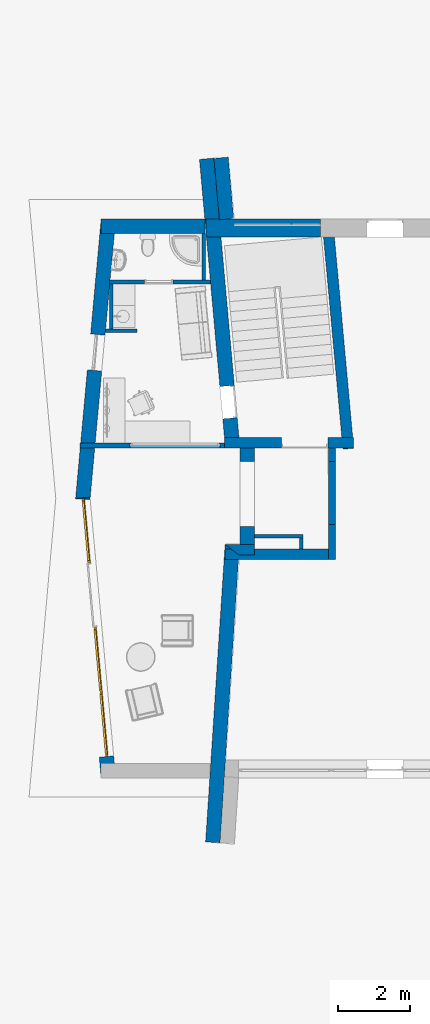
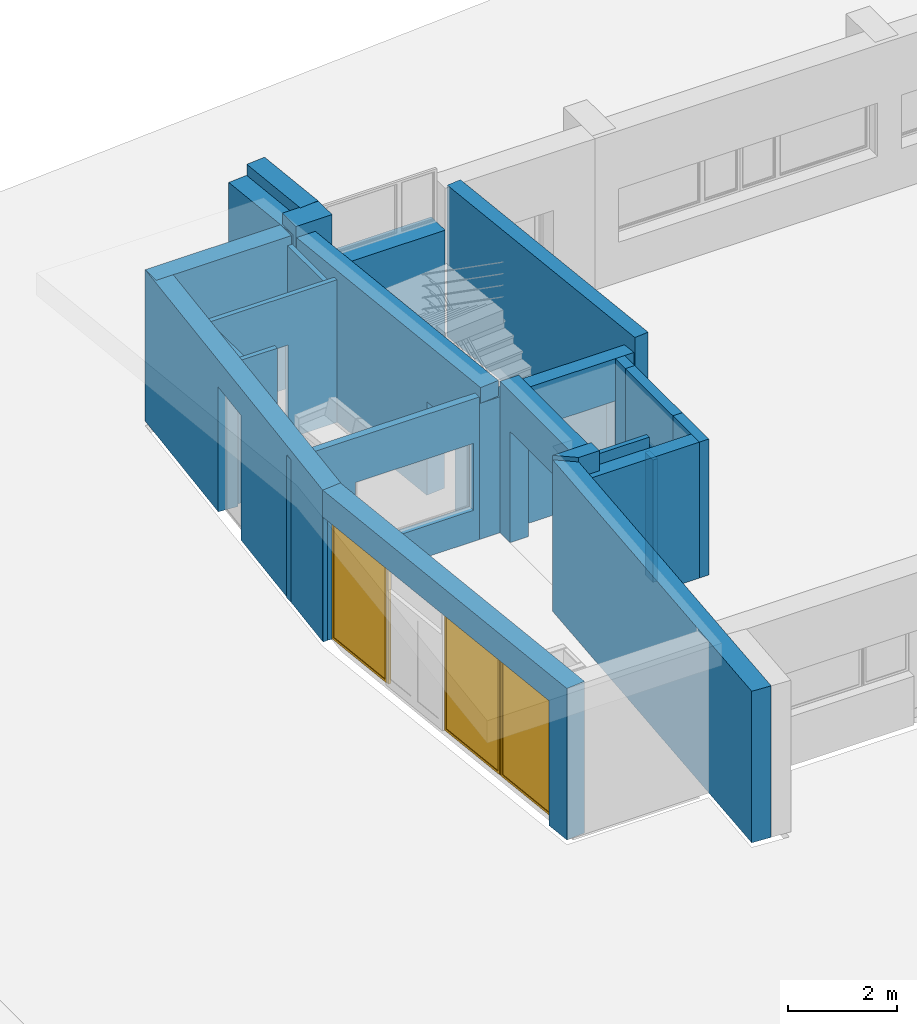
# One storey, part 2 of 36: 22 walls, 3 windows, 11 openings.
"""IFC2X3 building model written with IfcOpenShell, lengths in millimetres."""

import ifcopenshell
import ifcopenshell.guid

model = None  # the IFC model being written
_history = None  # IfcOwnerHistory: only IFC2X3 demands one
_inside = {}  # id of a spatial element -> (the spatial element, [elements in it])
_under = {}  # id of a project, library or spatial element -> (it, [spatial elements below it])
_declared = {}  # id of a project -> (the project, [libraries it declares])
_typed = {}  # id of a type object -> (the type object, [elements of that type])
_made_of = {}  # id of a material, layer set ... -> (it, [elements and type objects made of it])


def new_model(schema):
    """Start an empty IFC model of exactly this schema.

    Asked for "IFC4X3", IfcOpenShell would pick the latest addendum, in which some entities
    have other attributes; the version numbers below select the first issue.
    IFC2X3 requires an IfcOwnerHistory on every rooted entity: one is made here for all.
    """
    global model, _history
    if schema == "IFC4X3":
        model = ifcopenshell.file(schema_version=(4, 3, 0, 0))
    else:
        model = ifcopenshell.file(schema=schema)
    _inside.clear()
    _under.clear()
    _declared.clear()
    _typed.clear()
    _made_of.clear()
    _history = None
    if model.schema == "IFC2X3":
        org = make("IfcOrganization", Name="unknown")
        user = make(
            "IfcPersonAndOrganization",
            ThePerson=make("IfcPerson", FamilyName="unknown"),
            TheOrganization=org,
        )
        app = make(
            "IfcApplication",
            ApplicationDeveloper=org,
            Version="unknown",
            ApplicationFullName="unknown",
            ApplicationIdentifier="unknown",
        )
        _history = make(
            "IfcOwnerHistory",
            OwningUser=user,
            OwningApplication=app,
            ChangeAction="ADDED",
            CreationDate=0,
        )
    return model


def make(cls, **values):
    """One entity of the class cls with the attributes given. An attribute that is None is left unset."""
    return model.create_entity(
        cls, **{name: value for name, value in values.items() if value is not None}
    )


def entity(cls, *values):
    """Any entity or typed value of the class cls, its attributes in the order of the schema. None: left unset."""
    e = model.create_entity(cls)
    for i, value in enumerate(values):
        if value is not None:
            e[i] = value
    return e


def rooted(cls, **values):
    """An entity with a GlobalId (a new one), such as an element, a storey or a relation."""
    return make(cls, GlobalId=ifcopenshell.guid.new(), OwnerHistory=_history, **values)


def si_unit(unit_type, name, prefix=None):
    """IfcSIUnit, for example si_unit("LENGTHUNIT", "METRE", prefix="MILLI")."""
    return make("IfcSIUnit", UnitType=unit_type, Prefix=prefix, Name=name)


def converted_unit(unit_type, name, factor, base, dimensions=None, offset=None):
    """IfcConversionBasedUnit, such as the inch: factor (a typed value) times the base unit."""
    return make(
        "IfcConversionBasedUnit"
        if offset is None
        else "IfcConversionBasedUnitWithOffset",
        ConversionOffset=offset,
        Dimensions=None
        if dimensions is None
        else entity("IfcDimensionalExponents", *dimensions),
        UnitType=unit_type,
        Name=name,
        ConversionFactor=make(
            "IfcMeasureWithUnit", ValueComponent=factor, UnitComponent=base
        ),
    )


def money_unit(currency):
    """IfcMonetaryUnit."""
    return make("IfcMonetaryUnit", Currency=currency)


def assignment(units):
    """IfcUnitAssignment: the units of a project."""
    return None if units is None else make("IfcUnitAssignment", Units=units)


def point(xyz):
    """IfcCartesianPoint."""
    return None if xyz is None else make("IfcCartesianPoint", Coordinates=xyz)


def direction(xyz):
    """IfcDirection."""
    return None if xyz is None else make("IfcDirection", DirectionRatios=xyz)


def frame(location, z_axis=None, x_axis=None):
    """IfcAxis2Placement3D, a coordinate frame: its origin and axes. An axis left out is left unset."""
    return make(
        "IfcAxis2Placement3D",
        Location=point(location),
        Axis=direction(z_axis),
        RefDirection=direction(x_axis),
    )


def origin_with_axes():
    """The frame at (0, 0, 0) with the z axis (0, 0, 1) and the x axis (1, 0, 0) written out."""
    return frame((0.0, 0.0, 0.0), z_axis=(0.0, 0.0, 1.0), x_axis=(1.0, 0.0, 0.0))


def place(relative_to, where):
    """IfcLocalPlacement: puts the frame where relative to a parent placement (None: the world)."""
    return make(
        "IfcLocalPlacement", PlacementRelTo=relative_to, RelativePlacement=where
    )


def context(
    kind, dimensions, precision=None, world=None, true_north=None, identifier=None
):
    """IfcGeometricRepresentationContext, for example the 3D "Model" context."""
    return make(
        "IfcGeometricRepresentationContext",
        ContextIdentifier=identifier,
        ContextType=kind,
        CoordinateSpaceDimension=dimensions,
        Precision=precision,
        WorldCoordinateSystem=world,
        TrueNorth=true_north,
    )


def subcontext(parent, identifier, kind, view, scale=None):
    """IfcGeometricRepresentationSubContext, for example "Body" below "Model"."""
    return make(
        "IfcGeometricRepresentationSubContext",
        ContextIdentifier=identifier,
        ContextType=kind,
        ParentContext=parent,
        TargetScale=scale,
        TargetView=view,
    )


def project(units=None, contexts=None):
    """IfcProject with its units and contexts."""
    return rooted(
        "IfcProject",
        Name="project",
        RepresentationContexts=contexts,
        UnitsInContext=assignment(units),
    )


def spatial(cls, under=None, at=None, **own):
    """A site, building, storey or space (cls), placed at a placement, below another one or the project."""
    s = rooted(cls, ObjectPlacement=at, **own)
    if under is not None:
        _under.setdefault(under.id(), (under, []))[1].append(s)
    return s


def polyline(points):
    """IfcPolyline through the points."""
    return make("IfcPolyline", Points=[point(p) for p in points])


def outline(outer, holes=None, kind="AREA"):
    """IfcArbitraryClosedProfileDef: a profile drawn as a closed curve; with holes, ...WithVoids."""
    if holes is None:
        return make("IfcArbitraryClosedProfileDef", ProfileType=kind, OuterCurve=outer)
    return make(
        "IfcArbitraryProfileDefWithVoids",
        ProfileType=kind,
        OuterCurve=outer,
        InnerCurves=holes,
    )


def extrude(swept, where, along, depth):
    """IfcExtrudedAreaSolid: the profile swept, set in the frame where, extruded along a direction by depth."""
    return make(
        "IfcExtrudedAreaSolid",
        SweptArea=swept,
        Position=where,
        ExtrudedDirection=direction(along),
        Depth=depth,
    )


def faces_of(points, faces, orient=None, outer=None):
    """IfcFace entities. A face is a list of loops; a loop is a list of indices into points, from 0.

    orient and outer hold one flag for each loop. By default every Orientation is true, the
    first loop of a face is its IfcFaceOuterBound and the others are IfcFaceBound.
    """
    made = []
    for i, loops in enumerate(faces):
        bounds = []
        for j, loop in enumerate(loops):
            is_outer = j == 0 if outer is None else outer[i][j]
            bounds.append(
                make(
                    "IfcFaceOuterBound" if is_outer else "IfcFaceBound",
                    Bound=make("IfcPolyLoop", Polygon=[points[k] for k in loop]),
                    Orientation=True if orient is None else orient[i][j],
                )
            )
        made.append(make("IfcFace", Bounds=bounds))
    return made


def open_shell(faces, orient=None, outer=None):
    """The faces of one IfcOpenShell. surface_model builds it on its shared points."""
    return ("IfcOpenShell", faces, orient, outer)


def faceted_brep(points, faces, orient=None, outer=None, voids=None):
    """IfcFacetedBrep: a solid bounded by flat faces; with voids (closed shells), ...WithVoids."""
    shared = [point(p) for p in points]
    hull = make("IfcClosedShell", CfsFaces=faces_of(shared, faces, orient, outer))
    if voids is None:
        return make("IfcFacetedBrep", Outer=hull)
    return make(
        "IfcFacetedBrepWithVoids",
        Outer=hull,
        Voids=[
            make(cls, CfsFaces=faces_of(shared, fs, o, b)) for cls, fs, o, b in voids
        ],
    )


def surface_model(cls, points, shells):
    """IfcFaceBasedSurfaceModel or IfcShellBasedSurfaceModel (cls): surfaces that need not close."""
    shared = [point(p) for p in points]
    made = [make(c, CfsFaces=faces_of(shared, fs, o, b)) for c, fs, o, b in shells]
    if cls == "IfcFaceBasedSurfaceModel":
        return make(cls, FbsmFaces=made)
    return make(cls, SbsmBoundary=made)


def shape(context_of_items, identifier, shape_type, items):
    """IfcShapeRepresentation: the items that make up one representation, for example the "Body"."""
    return make(
        "IfcShapeRepresentation",
        ContextOfItems=context_of_items,
        RepresentationIdentifier=identifier,
        RepresentationType=shape_type,
        Items=items,
    )


def source(mapping_origin, context_of_items, identifier, shape_type, items):
    """IfcRepresentationMap: a shape defined once, which mapped items show again and again."""
    return make(
        "IfcRepresentationMap",
        MappingOrigin=mapping_origin,
        MappedRepresentation=shape(context_of_items, identifier, shape_type, items),
    )


def transform(
    local_origin,
    x_axis=None,
    y_axis=None,
    z_axis=None,
    scale=None,
    scale2=None,
    scale3=None,
    uniform=True,
):
    """IfcCartesianTransformationOperator3D, or its non-uniform kind. x_axis, y_axis, z_axis: its Axis1, 2, 3."""
    if uniform:
        return make(
            "IfcCartesianTransformationOperator3D",
            Axis1=direction(x_axis),
            Axis2=direction(y_axis),
            LocalOrigin=point(local_origin),
            Scale=scale,
            Axis3=direction(z_axis),
        )
    return make(
        "IfcCartesianTransformationOperator3DnonUniform",
        Axis1=direction(x_axis),
        Axis2=direction(y_axis),
        LocalOrigin=point(local_origin),
        Scale=scale,
        Axis3=direction(z_axis),
        Scale2=scale2,
        Scale3=scale3,
    )


def mapped(mapping_source, mapping_target):
    """IfcMappedItem: shows the shape of a source again, moved by a transform."""
    return make(
        "IfcMappedItem", MappingSource=mapping_source, MappingTarget=mapping_target
    )


def material(Name=None, Category=None):
    """IfcMaterial."""
    return make("IfcMaterial", Name=Name, Category=Category)


def material_list(materials):
    """IfcMaterialList."""
    return make("IfcMaterialList", Materials=materials)


def layer(
    of_material, thickness, ventilated=None, Name=None, Category=None, Priority=None
):
    """IfcMaterialLayer: one layer of a wall or slab, of a material (None: an air gap)."""
    return make(
        "IfcMaterialLayer",
        Material=of_material,
        LayerThickness=thickness,
        IsVentilated=ventilated,
        Name=Name,
        Category=Category,
        Priority=Priority,
    )


def layer_set(layers, Name=None):
    """IfcMaterialLayerSet."""
    return make("IfcMaterialLayerSet", MaterialLayers=layers, LayerSetName=Name)


def layer_usage(for_layer_set, set_direction, sense, offset, extent=None):
    """IfcMaterialLayerSetUsage: how a layer set lies in its element."""
    return make(
        "IfcMaterialLayerSetUsage",
        ForLayerSet=for_layer_set,
        LayerSetDirection=set_direction,
        DirectionSense=sense,
        OffsetFromReferenceLine=offset,
        ReferenceExtent=extent,
    )


def made_of(thing, what):
    """Note that an element or type object is made of a material, layer set ...; save() writes the relation."""
    if what is not None:
        _made_of.setdefault(what.id(), (what, []))[1].append(thing)
    return thing


def type_object(cls, material=None, **own):
    """A type object (cls), such as IfcWallType, which elements share."""
    return made_of(rooted(cls, **own), material)


def element(
    cls,
    number,
    at=None,
    inside=None,
    cuts=None,
    type_object=None,
    material=None,
    context=None,
    identifier="Body",
    shape_type=None,
    held_by="IfcProductDefinitionShape",
    body=None,
    shapes=None,
    **own,
):
    """One element of the class cls, such as IfcWall. Its Tag is "e" and its number.

    at: its placement. inside: the storey or other place that contains it. cuts: it is an
    opening in that element (IfcRelVoidsElement). A single representation is given by context,
    identifier, shape_type and body (its items); several are given by shapes. held_by: the class
    of the entity that holds the representations. save() writes the other relations.
    """
    e = rooted(cls, Tag="e%d" % number, ObjectPlacement=at, **own)
    if body is not None:
        shapes = [shape(context, identifier, shape_type, body)]
    if shapes is not None:
        e.Representation = make(held_by, Representations=shapes)
    if inside is not None:
        _inside.setdefault(inside.id(), (inside, []))[1].append(e)
    if cuts is not None:
        rooted(
            "IfcRelVoidsElement", RelatingBuildingElement=cuts, RelatedOpeningElement=e
        )
    if type_object is not None:
        _typed.setdefault(type_object.id(), (type_object, []))[1].append(e)
    return made_of(e, material)


def fill(opening, filler):
    """IfcRelFillsElement: the door or window that sits in an opening."""
    return rooted(
        "IfcRelFillsElement",
        RelatingOpeningElement=opening,
        RelatedBuildingElement=filler,
    )


def aggregate(whole, parts):
    """IfcRelAggregates: a whole, such as a stair, and the parts it consists of."""
    return rooted("IfcRelAggregates", RelatingObject=whole, RelatedObjects=parts)


def save(model, path):
    """Write the relations noted so far, then the file.

    IfcRelAggregates (storeys below a building ...), IfcRelContainedInSpatialStructure (elements
    in a storey), IfcRelDefinesByType, IfcRelAssociatesMaterial and IfcRelDeclares: one each for
    every whole, place, type object, material and project.
    """
    for whole, parts in _under.values():
        aggregate(whole, parts)
    for where, things in _inside.values():
        rooted(
            "IfcRelContainedInSpatialStructure",
            RelatedElements=things,
            RelatingStructure=where,
        )
    for kind, things in _typed.values():
        rooted("IfcRelDefinesByType", RelatedObjects=things, RelatingType=kind)
    for what, things in _made_of.values():
        rooted("IfcRelAssociatesMaterial", RelatedObjects=things, RelatingMaterial=what)
    for by, libraries in _declared.values():
        rooted("IfcRelDeclares", RelatingContext=by, RelatedDefinitions=libraries)
    model.write(path)


model = new_model("IFC2X3")

# Units and contexts
model_context = context("Model", 3, precision=1e-05, world=origin_with_axes(), true_north=direction((0.0, 1.0)))
body_context = subcontext(model_context, "Body", "Model", "MODEL_VIEW")
ifc_project = project(units=[si_unit("LENGTHUNIT", "METRE", prefix="MILLI"), si_unit("AREAUNIT", "SQUARE_METRE"), si_unit("VOLUMEUNIT", "CUBIC_METRE"), converted_unit("PLANEANGLEUNIT", "DEGREE", entity("IfcPlaneAngleMeasure", 0.0174532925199), si_unit("PLANEANGLEUNIT", "RADIAN"), dimensions=[0, 0, 0, 0, 0, 0, 0]), si_unit("SOLIDANGLEUNIT", "STERADIAN"), money_unit("USD"), converted_unit("TIMEUNIT", "Year", entity("IfcTimeMeasure", 31556926.0), si_unit("TIMEUNIT", "SECOND"), dimensions=[0, 0, 0, 0, 0, 0, 0]), si_unit("MASSUNIT", "GRAM"), si_unit("THERMODYNAMICTEMPERATUREUNIT", "DEGREE_CELSIUS"), si_unit("LUMINOUSINTENSITYUNIT", "LUMEN")], contexts=[model_context])

# Site, building, storey
site_placement = place(None, origin_with_axes())
site = spatial("IfcSite", under=ifc_project, at=site_placement, Name="Site", CompositionType="ELEMENT")
building_placement = place(site_placement, origin_with_axes())
building = spatial("IfcBuilding", under=site, at=building_placement, Name="Building", CompositionType="ELEMENT")
storey_placement = place(building_placement, frame((0.0, 0.0, -3400.0), z_axis=(0.0, 0.0, 1.0), x_axis=(1.0, 0.0, 0.0)))
storey = spatial("IfcBuildingStorey", under=building, at=storey_placement, Name="1KORRUS", CompositionType="ELEMENT", Elevation=-3400.0)

# Wall, opening
ifc_material_1 = material(Name="Olemasolevad seinad tellis, uus viimistlus")
ifc_layer_1 = layer(ifc_material_1, 400.0, ventilated="UNKNOWN")
ifc_layer_set_1 = layer_set([ifc_layer_1], Name="Olemasolevad seinad tellis, uus viimistlus 400")
ifc_layer_usage_1 = layer_usage(ifc_layer_set_1, "AXIS2", "POSITIVE", -400.0)
wall_type_1 = type_object("IfcWallType", Name="Olemasolevad seinad tellis, uus viimistlus 400", PredefinedType="NOTDEFINED")
wall_1_placement = place(storey_placement, frame((-54200.5997828, -10997.6526712, 0.0), z_axis=(0.0, 0.0, 1.0), x_axis=(-0.0895981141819, 0.995978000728, 0.0)))
wall_1 = element("IfcWallStandardCase", 1, at=wall_1_placement, inside=storey, type_object=wall_type_1, material=ifc_layer_usage_1, Name="VS1", ObjectType="VS1", context=body_context, shape_type="SweptSolid", body=[
    extrude(outline(polyline([(0.0, -400.0), (8042.03298677, -400.0), (8042.03298677, 0.0), (0.0, 0.0), (0.0, -400.0)])), origin_with_axes(), (0.0, 0.0, 1.0), 3400.0),
])
opening_1_placement = place(wall_1_placement, frame((1267.27481018, 0.0, 0.0), z_axis=(0.0, 0.0, 1.0), x_axis=(1.0, 0.0, 0.0)))
element("IfcOpeningElement", 2, at=opening_1_placement, cuts=wall_1, Name="SU7", context=body_context, shape_type="SweptSolid", body=[
    extrude(outline(polyline([(-450.0, -2100.0), (450.0, -2100.0), (450.0, 0.0), (-450.0, 0.0), (-450.0, -2100.0)])), frame((0.0, 400.0, 0.0), z_axis=(0.0, -1.0, 0.0), x_axis=(-1.0, 0.0, 0.0)), (0.0, 0.0, 1.0), 1200.0),
])

# Walls
ifc_layer_usage_2 = layer_usage(ifc_layer_set_1, "AXIS2", "POSITIVE", 0.0)
wall_2_placement = place(storey_placement, frame((-54209.8419994, -13661.5124894, 0.0), z_axis=(0.0, 0.0, 1.0), x_axis=(-0.0653463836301, -0.997862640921, 0.0)))
element("IfcWallStandardCase", 3, at=wall_2_placement, inside=storey, type_object=wall_type_1, material=ifc_layer_usage_2, Name="VS1", ObjectType="VS1", context=body_context, shape_type="SweptSolid", body=[
    extrude(outline(polyline([(0.0, 0.0), (8272.34369244, 0.0), (8272.34369244, 400.0), (0.0, 400.0), (0.0, 0.0)])), origin_with_axes(), (0.0, 0.0, 1.0), 3400.0),
])
ifc_layer_usage_3 = layer_usage(ifc_layer_set_1, "AXIS2", "POSITIVE", 0.0)
wall_3_placement = place(storey_placement, frame((-53970.4073993, -4627.72563275, 0.0), z_axis=(0.0, 0.0, 1.0), x_axis=(-0.0895981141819, 0.995978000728, 0.0)))
element("IfcWallStandardCase", 4, at=wall_3_placement, inside=storey, type_object=wall_type_1, material=ifc_layer_usage_3, Name="VS1", ObjectType="VS1", context=body_context, shape_type="SweptSolid", body=[
    extrude(outline(polyline([(0.0, 0.0), (1709.93377799, 0.0), (1709.93377799, 400.0), (0.0, 400.0), (0.0, 0.0)])), origin_with_axes(), (0.0, 0.0, 1.0), 3650.0),
])

# Wall, opening
ifc_layer_usage_4 = layer_usage(ifc_layer_set_1, "AXIS2", "POSITIVE", -400.0)
wall_4_placement = place(storey_placement, frame((-53392.226831, -10997.6526712, 0.0), z_axis=(0.0, 0.0, 1.0), x_axis=(0.0, -1.0, 0.0)))
wall_4 = element("IfcWallStandardCase", 5, at=wall_4_placement, inside=storey, type_object=wall_type_1, material=ifc_layer_usage_4, Name="VS1", ObjectType="VS1", context=body_context, shape_type="SweptSolid", body=[
    extrude(outline(polyline([(0.0, -400.0), (2789.68489615, -400.0), (2789.68489615, 0.0), (0.0, 0.0), (0.0, -400.0)])), origin_with_axes(), (0.0, 0.0, 1.0), 3400.0),
])
opening_2_placement = place(wall_4_placement, frame((1268.92656346, 0.0, 0.0), z_axis=(0.0, 0.0, 1.0), x_axis=(1.0, 0.0, 0.0)))
element("IfcOpeningElement", 6, at=opening_2_placement, cuts=wall_4, Name="DOO - 001", context=body_context, shape_type="SweptSolid", body=[
    extrude(outline(polyline([(-900.0, 2500.0), (-900.0, 0.0), (900.0, 0.0), (900.0, 2500.0), (-900.0, 2500.0)])), frame((0.0, -400.0, 0.0), z_axis=(0.0, -1.0, 0.0), x_axis=(1.0, 0.0, 0.0)), (0.0, 0.0, 1.0), 400.0),
    extrude(outline(polyline([(-900.0, 0.0), (-900.0, -2500.0), (900.0, -2500.0), (900.0, 0.0), (-900.0, 0.0)])), frame((0.0, -400.0, 0.0), z_axis=(0.0, 1.0, 0.0), x_axis=(1.0, 0.0, 0.0)), (0.0, 0.0, 1.0), 400.0),
])

# Wall
ifc_layer_2 = layer(ifc_material_1, 300.0, ventilated="UNKNOWN")
ifc_layer_set_2 = layer_set([ifc_layer_2], Name="Olemasolevad seinad tellis, uus viimistlus 300")
ifc_layer_usage_5 = layer_usage(ifc_layer_set_2, "AXIS2", "POSITIVE", -300.0)
wall_type_2 = type_object("IfcWallType", Name="Olemasolevad seinad tellis, uus viimistlus 300", PredefinedType="NOTDEFINED")
wall_5_placement = place(storey_placement, frame((-54209.8419994, -13661.5124894, 0.0), z_axis=(0.0, 0.0, 1.0), x_axis=(1.0, 0.0, 0.0)))
element("IfcWallStandardCase", 7, at=wall_5_placement, inside=storey, type_object=wall_type_2, material=ifc_layer_usage_5, Name="VS1", ObjectType="VS1", context=body_context, shape_type="SweptSolid", body=[
    extrude(outline(polyline([(381.210869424, -300.0), (817.615168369, -300.0), (817.615168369, 0.0), (0.0, 0.0), (381.210869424, -300.0)])), origin_with_axes(), (0.0, 0.0, 1.0), 3500.0),
])

# Wall, opening
ifc_layer_3 = layer(ifc_material_1, 500.0, ventilated="UNKNOWN")
ifc_layer_set_3 = layer_set([ifc_layer_3], Name="Olemasolevad seinad tellis, uus viimistlus 500")
ifc_layer_usage_6 = layer_usage(ifc_layer_set_3, "AXIS2", "POSITIVE", -100.0)
wall_type_3 = type_object("IfcWallType", Name="Olemasolevad seinad tellis, uus viimistlus 500", PredefinedType="NOTDEFINED")
wall_6_placement = place(storey_placement, frame((-54736.5854321, -5039.6041088, 0.0), z_axis=(0.0, 0.0, 1.0), x_axis=(1.0, 0.0, 0.0)))
wall_6 = element("IfcWallStandardCase", 8, at=wall_6_placement, inside=storey, type_object=wall_type_3, material=ifc_layer_usage_6, Name="VS1", ObjectType="VS1", context=body_context, shape_type="SweptSolid", body=[
    extrude(outline(polyline([(0.0, -100.0), (3167.24661967, -100.0), (3167.24661967, 400.0), (0.0, 400.0), (0.0, -100.0)])), origin_with_axes(), (0.0, 0.0, 1.0), 3650.0),
])
opening_3_placement = place(wall_6_placement, frame((1967.24661967, 0.0, 2460.0), z_axis=(0.0, 0.0, 1.0), x_axis=(1.0, 0.0, 0.0)))
element("IfcOpeningElement", 9, at=opening_3_placement, cuts=wall_6, Name="A2", context=body_context, shape_type="SweptSolid", body=[
    extrude(outline(polyline([(-1200.0, 1200.0), (-1200.0, 0.0), (1200.0, 0.0), (1200.0, 1200.0), (-1200.0, 1200.0)])), frame((0.0, 250.0, 0.0), z_axis=(0.0, -1.0, 0.0), x_axis=(1.0, 0.0, 0.0)), (0.0, 0.0, 1.0), 850.0),
    extrude(outline(polyline([(-1200.0, 0.0), (-1200.0, -1200.0), (1200.0, -1200.0), (1200.0, 0.0), (-1200.0, 0.0)])), frame((0.0, 250.0, 0.0), z_axis=(0.0, 1.0, 0.0), x_axis=(1.0, 0.0, 0.0)), (0.0, 0.0, 1.0), 650.0),
])

# Wall, openings, windows
ifc_material_2 = material(Name="Kergplokk")
ifc_layer_4 = layer(ifc_material_2, 200.0, ventilated="UNKNOWN")
ifc_material_3 = material(Name="Plaat")
ifc_layer_5 = layer(ifc_material_3, 200.0, ventilated="UNKNOWN")
ifc_layer_set_4 = layer_set([ifc_layer_4, ifc_layer_5], Name="VS2 Uus välissein kergplokk, soojustus, plaat")
ifc_layer_usage_7 = layer_usage(ifc_layer_set_4, "AXIS2", "POSITIVE", -400.0)
wall_type_4 = type_object("IfcWallType", Name="VS2 Uus välissein kergplokk, soojustus, plaat 400", PredefinedType="NOTDEFINED")
wall_7_placement = place(storey_placement, frame((-57647.6401026, -20140.8461459, 0.0), z_axis=(0.0, 0.0, 1.0), x_axis=(-0.0910473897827, 0.995846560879, 0.0)))
wall_7 = element("IfcWallStandardCase", 10, at=wall_7_placement, inside=storey, type_object=wall_type_4, material=ifc_layer_usage_7, Name="VS2", ObjectType="VS2", context=body_context, shape_type="SweptSolid", body=[
    extrude(outline(polyline([(0.0, -400.0), (7782.94701514, -400.0), (7782.94701514, 0.0), (0.0, 0.0), (0.0, -400.0)])), origin_with_axes(), (0.0, 0.0, 1.0), 3400.0),
])
opening_4_placement = place(wall_7_placement, frame((6866.08785727, 0.0, 0.0), z_axis=(0.0, 0.0, 1.0), x_axis=(1.0, 0.0, 0.0)))
opening_4 = element("IfcOpeningElement", 11, at=opening_4_placement, cuts=wall_7, Name="KLA1", context=body_context, shape_type="SweptSolid", body=[
    extrude(outline(polyline([(-900.0, 0.0), (-900.0, -2800.0), (900.0, -2800.0), (900.0, 0.0), (-900.0, 0.0)])), frame((0.0, -200.0, 0.0), z_axis=(0.0, 1.0, 0.0), x_axis=(1.0, 0.0, 0.0)), (0.0, 0.0, 1.0), 600.0),
    extrude(outline(polyline([(-900.0, 2800.0), (-900.0, 0.0), (900.0, 0.0), (900.0, 2800.0), (-900.0, 2800.0)])), frame((0.0, -200.0, 0.0), z_axis=(0.0, -1.0, 0.0), x_axis=(1.0, 0.0, 0.0)), (0.0, 0.0, 1.0), 600.0),
])
opening_5_placement = place(wall_7_placement, frame((3275.57702924, 0.0, 0.0), z_axis=(0.0, 0.0, 1.0), x_axis=(1.0, 0.0, 0.0)))
opening_5 = element("IfcOpeningElement", 12, at=opening_5_placement, cuts=wall_7, Name="KLA1", context=body_context, shape_type="SweptSolid", body=[
    extrude(outline(polyline([(-900.0, 0.0), (-900.0, -2800.0), (900.0, -2800.0), (900.0, 0.0), (-900.0, 0.0)])), frame((0.0, -200.0, 0.0), z_axis=(0.0, 1.0, 0.0), x_axis=(1.0, 0.0, 0.0)), (0.0, 0.0, 1.0), 600.0),
    extrude(outline(polyline([(-900.0, 2800.0), (-900.0, 0.0), (900.0, 0.0), (900.0, 2800.0), (-900.0, 2800.0)])), frame((0.0, -200.0, 0.0), z_axis=(0.0, -1.0, 0.0), x_axis=(1.0, 0.0, 0.0)), (0.0, 0.0, 1.0), 600.0),
])
opening_6_placement = place(wall_7_placement, frame((1475.57702924, 0.0, 0.0), z_axis=(0.0, 0.0, 1.0), x_axis=(1.0, 0.0, 0.0)))
opening_6 = element("IfcOpeningElement", 13, at=opening_6_placement, cuts=wall_7, Name="KLA1", context=body_context, shape_type="SweptSolid", body=[
    extrude(outline(polyline([(-900.0, 0.0), (-900.0, -2800.0), (900.0, -2800.0), (900.0, 0.0), (-900.0, 0.0)])), frame((0.0, -200.0, 0.0), z_axis=(0.0, 1.0, 0.0), x_axis=(1.0, 0.0, 0.0)), (0.0, 0.0, 1.0), 600.0),
    extrude(outline(polyline([(-900.0, 2800.0), (-900.0, 0.0), (900.0, 0.0), (900.0, 2800.0), (-900.0, 2800.0)])), frame((0.0, -200.0, 0.0), z_axis=(0.0, -1.0, 0.0), x_axis=(1.0, 0.0, 0.0)), (0.0, 0.0, 1.0), 600.0),
])
opening_7_placement = place(wall_7_placement, frame((5075.57702924, 0.0, 0.0), z_axis=(0.0, 0.0, 1.0), x_axis=(1.0, 0.0, 0.0)))
element("IfcOpeningElement", 14, at=opening_7_placement, cuts=wall_7, Name="KLA1", context=body_context, shape_type="SweptSolid", body=[
    extrude(outline(polyline([(900.0, 2800.0), (-900.0, 2800.0), (-900.0, 0.0), (900.0, 0.0), (900.0, 2800.0)])), frame((0.0, -150.0, 0.0), z_axis=(0.0, -1.0, 0.0), x_axis=(1.0, 0.0, 0.0)), (0.0, 0.0, 1.0), 650.0),
    extrude(outline(polyline([(900.0, 0.0), (-900.0, 0.0), (-900.0, -2800.0), (900.0, -2800.0), (900.0, 0.0)])), frame((0.0, -150.0, 0.0), z_axis=(0.0, 1.0, 0.0), x_axis=(1.0, 0.0, 0.0)), (0.0, 0.0, 1.0), 550.0),
])
ifc_material_4 = material(Name="Background")
ifc_material_list = material_list([ifc_material_4])
window_style = type_object("IfcWindowStyle", Name="Window 19", ConstructionType="NOTDEFINED", OperationType="SINGLE_PANEL", ParameterTakesPrecedence=False, Sizeable=False)
shared_shape = source(origin_with_axes(), body_context, "Body", "SurfaceModel", [
    faceted_brep([(-875.0, -200.0, 2750.0), (-900.0, -200.0, 2750.0), (-900.0, -250.0, 2750.0), (-850.0, -250.0, 2750.0), (-850.0, -225.0, 2750.0), (-875.0, -225.0, 2750.0), (-875.0, -200.0, 50.0), (-900.0, -200.0, 50.0), (-900.0, -250.0, 50.0), (-850.0, -250.0, 50.0), (-850.0, -225.0, 50.0), (-875.0, -225.0, 50.0)], [[[0, 1, 2, 3, 4, 5]], [[6, 7, 1, 0]], [[1, 7, 8, 2]], [[2, 8, 9, 3]], [[4, 3, 9, 10]], [[10, 11, 5, 4]], [[5, 11, 6, 0]], [[11, 10, 9, 8, 7, 6]]]),
    faceted_brep([(850.0, -225.0, 2750.0), (850.0, -250.0, 2750.0), (900.0, -250.0, 2750.0), (900.0, -200.0, 2750.0), (875.0, -200.0, 2750.0), (875.0, -225.0, 2750.0), (850.0, -225.0, 50.0), (850.0, -250.0, 50.0), (900.0, -250.0, 50.0), (900.0, -200.0, 50.0), (875.0, -200.0, 50.0), (875.0, -225.0, 50.0)], [[[0, 1, 2, 3, 4, 5]], [[6, 7, 1, 0]], [[8, 2, 1, 7]], [[9, 3, 2, 8]], [[4, 3, 9, 10]], [[10, 11, 5, 4]], [[5, 11, 6, 0]], [[11, 10, 9, 8, 7, 6]]]),
    faceted_brep([(850.0, -225.0, 50.0), (850.0, -250.0, 50.0), (900.0, -250.0, 50.0), (900.0, -200.0, 50.0), (875.0, -200.0, 50.0), (875.0, -225.0, 50.0), (-850.0, -225.0, 50.0), (-850.0, -250.0, 50.0), (-900.0, -250.0, 50.0), (-900.0, -250.0, 0.0), (900.0, -250.0, 0.0), (900.0, -200.0, 0.0), (-875.0, -200.0, 25.0), (875.0, -200.0, 25.0), (-900.0, -200.0, 0.0), (-900.0, -200.0, 50.0), (-875.0, -200.0, 50.0), (875.0, -225.0, 25.0), (-875.0, -225.0, 25.0), (-875.0, -225.0, 50.0)], [[[0, 1, 2, 3, 4, 5]], [[6, 7, 1, 0]], [[8, 9, 10, 2, 1, 7]], [[11, 3, 2, 10]], [[12, 13, 4, 3, 11, 14, 15, 16]], [[13, 17, 5, 4]], [[5, 17, 18, 19, 6, 0]], [[19, 16, 15, 8, 7, 6]], [[15, 14, 9, 8]], [[14, 11, 10, 9]], [[12, 18, 17, 13]], [[19, 18, 12, 16]]]),
    faceted_brep([(-875.0, -200.0, 2750.0), (-900.0, -200.0, 2750.0), (-900.0, -200.0, 2800.0), (900.0, -200.0, 2800.0), (900.0, -200.0, 2750.0), (875.0, -200.0, 2750.0), (875.0, -200.0, 2775.0), (-875.0, -200.0, 2775.0), (-875.0, -225.0, 2750.0), (-850.0, -225.0, 2750.0), (-850.0, -250.0, 2750.0), (-900.0, -250.0, 2750.0), (-900.0, -250.0, 2800.0), (900.0, -250.0, 2800.0), (900.0, -250.0, 2750.0), (875.0, -225.0, 2750.0), (850.0, -250.0, 2750.0), (850.0, -225.0, 2750.0), (875.0, -225.0, 2775.0), (-875.0, -225.0, 2775.0)], [[[0, 1, 2, 3, 4, 5, 6, 7]], [[8, 9, 10, 11, 1, 0]], [[2, 1, 11, 12]], [[3, 2, 12, 13]], [[4, 3, 13, 14]], [[15, 5, 4, 14, 16, 17]], [[5, 15, 18, 6]], [[6, 18, 19, 7]], [[7, 19, 8, 0]], [[17, 9, 8, 19, 18, 15]], [[17, 16, 10, 9]], [[14, 13, 12, 11, 10, 16]]]),
    faceted_brep([(-825.0, -225.0, 2725.0), (-825.0, -175.0, 2725.0), (-875.0, -175.0, 2725.0), (-875.0, -225.0, 2725.0), (-825.0, -225.0, 75.0), (-825.0, -175.0, 75.0), (-875.0, -175.0, 75.0), (-875.0, -225.0, 75.0)], [[[0, 1, 2, 3]], [[4, 5, 1, 0]], [[1, 5, 6, 2]], [[3, 2, 6, 7]], [[0, 3, 7, 4]], [[7, 6, 5, 4]]]),
    faceted_brep([(825.0, -225.0, 75.0), (825.0, -175.0, 75.0), (875.0, -175.0, 75.0), (875.0, -225.0, 75.0), (825.0, -225.0, 2725.0), (825.0, -175.0, 2725.0), (875.0, -175.0, 2725.0), (875.0, -225.0, 2725.0)], [[[0, 1, 2, 3]], [[4, 5, 1, 0]], [[1, 5, 6, 2]], [[3, 2, 6, 7]], [[0, 3, 7, 4]], [[7, 6, 5, 4]]]),
    faceted_brep([(875.0, -225.0, 25.0), (875.0, -175.0, 25.0), (875.0, -175.0, 75.0), (875.0, -225.0, 75.0), (-875.0, -225.0, 25.0), (-875.0, -175.0, 25.0), (-875.0, -175.0, 75.0), (-825.0, -175.0, 75.0), (825.0, -175.0, 75.0), (825.0, -225.0, 75.0), (-825.0, -225.0, 75.0), (-875.0, -225.0, 75.0)], [[[0, 1, 2, 3]], [[4, 5, 1, 0]], [[1, 5, 6, 7, 8, 2]], [[3, 2, 8, 9]], [[0, 3, 9, 10, 11, 4]], [[11, 6, 5, 4]], [[10, 7, 6, 11]], [[9, 8, 7, 10]]]),
    faceted_brep([(-875.0, -225.0, 2775.0), (-875.0, -175.0, 2775.0), (-875.0, -175.0, 2725.0), (-875.0, -225.0, 2725.0), (875.0, -225.0, 2775.0), (875.0, -175.0, 2775.0), (875.0, -175.0, 2725.0), (825.0, -175.0, 2725.0), (-825.0, -175.0, 2725.0), (-825.0, -225.0, 2725.0), (825.0, -225.0, 2725.0), (875.0, -225.0, 2725.0)], [[[0, 1, 2, 3]], [[4, 5, 1, 0]], [[1, 5, 6, 7, 8, 2]], [[3, 2, 8, 9]], [[0, 3, 9, 10, 11, 4]], [[11, 6, 5, 4]], [[10, 7, 6, 11]], [[9, 8, 7, 10]]]),
    surface_model("IfcShellBasedSurfaceModel", [(-825.0, -210.0, 75.0), (825.0, -210.0, 75.0), (825.0, -210.0, 2725.0), (-825.0, -210.0, 2725.0)], [open_shell([[[0, 1, 2, 3]]])]),
    surface_model("IfcShellBasedSurfaceModel", [(-825.0, -190.0, 75.0), (-825.0, -190.0, 2725.0), (825.0, -190.0, 2725.0), (825.0, -190.0, 75.0)], [open_shell([[[0, 1, 2, 3]]])]),
])
window_1_placement = place(opening_4_placement, frame((-900.0, 0.0, 0.0), z_axis=(0.0, 0.0, 1.0), x_axis=(1.0, 0.0, 0.0)))
window_1 = element("IfcWindow", 15, at=window_1_placement, inside=storey, type_object=window_style, material=ifc_material_list, Name="KLA1", ObjectType="KLA1", OverallHeight=2800.0, OverallWidth=1800.0, context=body_context, shape_type="MappedRepresentation", body=[
    mapped(shared_shape, transform((900.0, 0.0, 0.0))),
])
fill(opening_4, window_1)
window_2_placement = place(opening_5_placement, frame((-900.0, 0.0, 0.0), z_axis=(0.0, 0.0, 1.0), x_axis=(1.0, 0.0, 0.0)))
window_2 = element("IfcWindow", 16, at=window_2_placement, inside=storey, type_object=window_style, material=ifc_material_list, Name="KLA1", ObjectType="KLA1", OverallHeight=2800.0, OverallWidth=1800.0, context=body_context, shape_type="MappedRepresentation", body=[
    mapped(shared_shape, transform((900.0, 0.0, 0.0))),
])
fill(opening_5, window_2)
window_3_placement = place(opening_6_placement, frame((-900.0, 0.0, 0.0), z_axis=(0.0, 0.0, 1.0), x_axis=(1.0, 0.0, 0.0)))
window_3 = element("IfcWindow", 17, at=window_3_placement, inside=storey, type_object=window_style, material=ifc_material_list, Name="KLA1", ObjectType="KLA1", OverallHeight=2800.0, OverallWidth=1800.0, context=body_context, shape_type="MappedRepresentation", body=[
    mapped(shared_shape, transform((900.0, 0.0, 0.0))),
])
fill(opening_6, window_3)

# Wall, opening
ifc_layer_6 = layer(ifc_material_3, 200.0, ventilated="UNKNOWN")
ifc_layer_7 = layer(ifc_material_2, 200.0, ventilated="UNKNOWN")
ifc_layer_set_5 = layer_set([ifc_layer_6, ifc_layer_7], Name="VS2 Uus välissein kergplokk, soojustus, plaat (1)")
ifc_layer_usage_8 = layer_usage(ifc_layer_set_5, "AXIS2", "POSITIVE", 0.0)
wall_8_placement = place(storey_placement, frame((-57647.6401026, -4639.6041088, 0.0), z_axis=(0.0, 0.0, 1.0), x_axis=(-0.0910473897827, -0.995846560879, 0.0)))
wall_8 = element("IfcWallStandardCase", 18, at=wall_8_placement, inside=storey, type_object=wall_type_4, material=ifc_layer_usage_8, Name="VS2", ObjectType="VS2", context=body_context, shape_type="SweptSolid", body=[
    extrude(outline(polyline([(0.0, 0.0), (7782.94701514, 0.0), (7782.94701514, 400.0), (0.0, 400.0), (0.0, 0.0)])), origin_with_axes(), (0.0, 0.0, 1.0), 3400.0),
])
opening_8_placement = place(wall_8_placement, frame((3700.47568356, 0.0, 0.0), z_axis=(0.0, 0.0, 1.0), x_axis=(1.0, 0.0, 0.0)))
element("IfcOpeningElement", 19, at=opening_8_placement, cuts=wall_8, Name="A6", context=body_context, shape_type="SweptSolid", body=[
    extrude(outline(polyline([(500.0, 2800.0), (-500.0, 2800.0), (-500.0, 0.0), (500.0, 0.0), (500.0, 2800.0)])), frame((0.0, 150.0, 0.0), z_axis=(0.0, 1.0, 0.0), x_axis=(-1.0, 0.0, 0.0)), (0.0, 0.0, 1.0), 650.0),
    extrude(outline(polyline([(500.0, 0.0), (-500.0, 0.0), (-500.0, -2800.0), (500.0, -2800.0), (500.0, 0.0)])), frame((0.0, 150.0, 0.0), z_axis=(0.0, -1.0, 0.0), x_axis=(-1.0, 0.0, 0.0)), (0.0, 0.0, 1.0), 550.0),
])

# Wall
ifc_layer_usage_9 = layer_usage(ifc_layer_set_4, "AXIS2", "POSITIVE", -400.0)
wall_9_placement = place(storey_placement, frame((-57647.6401026, -4639.6041088, 0.0), z_axis=(0.0, 0.0, 1.0), x_axis=(1.0, 0.0, 0.0)))
element("IfcWallStandardCase", 20, at=wall_9_placement, inside=storey, type_object=wall_type_4, material=ifc_layer_usage_9, Name="VS2", ObjectType="VS2", context=body_context, shape_type="SweptSolid", body=[
    extrude(outline(polyline([(0.0, -400.0), (2875.07069736, -400.0), (2875.07069736, 0.0), (0.0, 0.0), (0.0, -400.0)])), origin_with_axes(), (0.0, 0.0, 1.0), 3400.0),
])

# Wall, opening
ifc_material_5 = material(Name="UmbKipsplaat")
ifc_layer_8 = layer(ifc_material_5, 13.0, ventilated="UNKNOWN")
ifc_layer_9 = layer(ifc_material_5, 13.0, ventilated="UNKNOWN")
ifc_material_6 = material(Name="SOOJUSTUS MINERAALVILL")
ifc_layer_10 = layer(ifc_material_6, 98.0, ventilated="UNKNOWN")
ifc_layer_11 = layer(ifc_material_5, 13.0, ventilated="UNKNOWN")
ifc_layer_12 = layer(ifc_material_5, 13.0, ventilated="UNKNOWN")
ifc_layer_set_6 = layer_set([ifc_layer_8, ifc_layer_9, ifc_layer_10, ifc_layer_11, ifc_layer_12], Name="kipssein150")
ifc_layer_usage_10 = layer_usage(ifc_layer_set_6, "AXIS2", "POSITIVE", 0.0)
wall_type_5 = type_object("IfcWallType", Name="kipssein150 150", PredefinedType="NOTDEFINED")
wall_10_placement = place(storey_placement, frame((-58228.9382147, -10997.6526712, 0.0), z_axis=(0.0, 0.0, 1.0), x_axis=(1.0, 0.0, 0.0)))
wall_10 = element("IfcWallStandardCase", 21, at=wall_10_placement, inside=storey, type_object=wall_type_5, material=ifc_layer_usage_10, Name="SS1", ObjectType="SS1", context=body_context, shape_type="SweptSolid", body=[
    extrude(outline(polyline([(0.0, 0.0), (4001.35045199, 0.0), (4001.35045199, 150.0), (0.0, 150.0), (0.0, 0.0)])), origin_with_axes(), (0.0, 0.0, 1.0), 3200.0),
])
opening_9_placement = place(wall_10_placement, frame((2628.33843188, 0.0, 700.0), z_axis=(0.0, 0.0, 1.0), x_axis=(1.0, 0.0, 0.0)))
element("IfcOpeningElement", 22, at=opening_9_placement, cuts=wall_10, Name="SA1", context=body_context, shape_type="SweptSolid", body=[
    extrude(outline(polyline([(-1250.0, 0.0), (-1250.0, -1500.0), (1250.0, -1500.0), (1250.0, 0.0), (-1250.0, 0.0)])), frame((0.0, 64.0, 0.0), z_axis=(0.0, 1.0, 0.0), x_axis=(1.0, 0.0, 0.0)), (0.0, 0.0, 1.0), 236.0),
    extrude(outline(polyline([(-1250.0, 1500.0), (-1250.0, 0.0), (1250.0, 0.0), (1250.0, 1500.0), (-1250.0, 1500.0)])), frame((0.0, 64.0, 0.0), z_axis=(0.0, -1.0, 0.0), x_axis=(1.0, 0.0, 0.0)), (0.0, 0.0, 1.0), 214.0),
])

# Walls
ifc_material_7 = material(Name="Olemasolevad seinad tellis, uus viimistlus")
ifc_layer_13 = layer(ifc_material_7, 300.0, ventilated="UNKNOWN")
ifc_layer_set_7 = layer_set([ifc_layer_13], Name="Olemasolevad seinad tellis, uus viimistlus  300")
ifc_layer_usage_11 = layer_usage(ifc_layer_set_7, "AXIS2", "POSITIVE", -300.0)
wall_type_6 = type_object("IfcWallType", Name="Olemasolevad seinad tellis, uus viimistlus  300", PredefinedType="NOTDEFINED")
wall_11_placement = place(storey_placement, frame((-51188.5055148, -5039.6041088, 0.0), z_axis=(0.0, 0.0, 1.0), x_axis=(0.0910473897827, -0.995846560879, 0.0)))
element("IfcWallStandardCase", 23, at=wall_11_placement, inside=storey, type_object=wall_type_6, material=ifc_layer_usage_11, Name="KS1", ObjectType="KS1", context=body_context, shape_type="SweptSolid", body=[
    extrude(outline(polyline([(0.0, -300.0), (5982.8981657, -300.0), (5982.8981657, 0.0), (0.0, 0.0), (0.0, -300.0)])), origin_with_axes(), (0.0, 0.0, 1.0), 3400.0),
])
ifc_layer_usage_12 = layer_usage(ifc_layer_set_7, "AXIS2", "POSITIVE", -300.0)
wall_12_placement = place(storey_placement, frame((-54209.8419994, -13787.3375674, 0.0), z_axis=(0.0, 0.0, 1.0), x_axis=(1.0, 0.0, 0.0)))
element("IfcWallStandardCase", 24, at=wall_12_placement, inside=storey, type_object=wall_type_6, material=ifc_layer_usage_12, Name="KS1", ObjectType="KS1", context=body_context, shape_type="SweptSolid", body=[
    extrude(outline(polyline([(0.0, -300.0), (3068.11193298, -300.0), (3068.11193298, 0.0), (0.0, 0.0), (0.0, -300.0)])), origin_with_axes(), (0.0, 0.0, 1.0), 3050.0),
])

# Wall, opening
ifc_layer_usage_13 = layer_usage(ifc_layer_set_7, "AXIS2", "POSITIVE", 0.0)
wall_13_placement = place(storey_placement, frame((-54227.5877627, -10997.6526712, 0.0), z_axis=(0.0, 0.0, 1.0), x_axis=(1.0, 0.0, 0.0)))
wall_13 = element("IfcWallStandardCase", 25, at=wall_13_placement, inside=storey, type_object=wall_type_6, material=ifc_layer_usage_13, Name="KS1", ObjectType="KS1", context=body_context, shape_type="SweptSolid", body=[
    extrude(outline(polyline([(0.0, 0.0), (3583.80950921, 0.0), (3583.80950921, 300.0), (0.0, 300.0), (0.0, 0.0)])), origin_with_axes(), (0.0, 0.0, 1.0), 3050.0),
])
opening_10_placement = place(wall_13_placement, frame((2225.04730344, 0.0, 0.0), z_axis=(0.0, 0.0, 1.0), x_axis=(1.0, 0.0, 0.0)))
element("IfcOpeningElement", 26, at=opening_10_placement, cuts=wall_13, Name="SU4-1", context=body_context, shape_type="SweptSolid", body=[
    extrude(outline(polyline([(650.0, -2100.0), (650.0, 0.0), (-650.0, 0.0), (-650.0, -2100.0), (650.0, -2100.0)])), frame((0.0, 300.0, 0.0), z_axis=(0.0, -1.0, 0.0), x_axis=(-1.0, 0.0, 0.0)), (0.0, 0.0, 1.0), 900.0),
])

# Walls
ifc_layer_14 = layer(ifc_material_7, 200.0, ventilated="UNKNOWN")
ifc_layer_set_8 = layer_set([ifc_layer_14], Name="Olemasolevad seinad tellis, uus viimistlus  200")
ifc_layer_usage_14 = layer_usage(ifc_layer_set_8, "AXIS2", "POSITIVE", 0.0)
wall_type_7 = type_object("IfcWallType", Name="Olemasolevad seinad tellis, uus viimistlus  200", PredefinedType="NOTDEFINED")
wall_14_placement = place(storey_placement, frame((-51141.7300664, -14087.3375674, 0.0), z_axis=(0.0, 0.0, 1.0), x_axis=(0.0, 1.0, 0.0)))
element("IfcWallStandardCase", 27, at=wall_14_placement, inside=storey, type_object=wall_type_7, material=ifc_layer_usage_14, Name="KS1", ObjectType="KS1", context=body_context, shape_type="SweptSolid", body=[
    extrude(outline(polyline([(0.0, 0.0), (975.989881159, 0.0), (975.989881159, 200.0), (0.0, 200.0), (0.0, 0.0)])), origin_with_axes(), (0.0, 0.0, 1.0), 3050.0),
])
ifc_layer_usage_15 = layer_usage(ifc_layer_set_8, "AXIS2", "POSITIVE", 0.0)
wall_15_placement = place(storey_placement, frame((-51141.7300664, -11366.5792347, 0.0), z_axis=(0.0, 0.0, 1.0), x_axis=(0.0, 1.0, 0.0)))
element("IfcWallStandardCase", 28, at=wall_15_placement, inside=storey, type_object=wall_type_7, material=ifc_layer_usage_15, Name="KS1", ObjectType="KS1", context=body_context, shape_type="SweptSolid", body=[
    extrude(outline(polyline([(0.0, 0.0), (368.926563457, 0.0), (368.926563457, 200.0), (0.0, 200.0), (0.0, 0.0)])), origin_with_axes(), (0.0, 0.0, 1.0), 3050.0),
])
ifc_material_8 = material(Name="krohv")
ifc_layer_15 = layer(ifc_material_8, 2.0, ventilated="UNKNOWN")
ifc_layer_16 = layer(ifc_material_8, 10.0, ventilated="UNKNOWN")
ifc_layer_17 = layer(ifc_material_2, 76.0, ventilated="UNKNOWN")
ifc_layer_18 = layer(ifc_material_8, 10.0, ventilated="UNKNOWN")
ifc_layer_19 = layer(ifc_material_8, 2.0, ventilated="UNKNOWN")
ifc_layer_set_9 = layer_set([ifc_layer_15, ifc_layer_16, ifc_layer_17, ifc_layer_18, ifc_layer_19], Name="Kergplokk Bauroc 100")
ifc_layer_usage_16 = layer_usage(ifc_layer_set_9, "AXIS2", "POSITIVE", -100.0)
wall_type_8 = type_object("IfcWallType", Name="Kergplokk Bauroc 100 100", PredefinedType="NOTDEFINED")
wall_16_placement = place(storey_placement, frame((-57532.4830055, -7688.36995912, 0.0), z_axis=(0.0, 0.0, 1.0), x_axis=(1.0, 0.0, 0.0)))
element("IfcWallStandardCase", 29, at=wall_16_placement, inside=storey, type_object=wall_type_8, material=ifc_layer_usage_16, Name="SS1", ObjectType="SS1", context=body_context, shape_type="SweptSolid", body=[
    extrude(outline(polyline([(0.0, -100.0), (873.317018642, -100.0), (873.317018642, 0.0), (0.0, 0.0), (0.0, -100.0)])), origin_with_axes(), (0.0, 0.0, 1.0), 3200.0),
])

# Wall, opening
ifc_layer_usage_17 = layer_usage(ifc_layer_set_9, "AXIS2", "POSITIVE", 0.0)
wall_17_placement = place(storey_placement, frame((-57410.3577718, -6437.6041088, 0.0), z_axis=(0.0, 0.0, 1.0), x_axis=(1.0, 0.0, 0.0)))
wall_17 = element("IfcWallStandardCase", 30, at=wall_17_placement, inside=storey, type_object=wall_type_8, material=ifc_layer_usage_17, Name="SS1", ObjectType="SS1", context=body_context, shape_type="SweptSolid", body=[
    extrude(outline(polyline([(0.0, 0.0), (2799.71624582, 0.0), (2799.71624582, 100.0), (0.0, 100.0), (0.0, 0.0)])), origin_with_axes(), (0.0, 0.0, 1.0), 3200.0),
])
opening_11_placement = place(wall_17_placement, frame((1359.9161516, 0.0, 0.0), z_axis=(0.0, 0.0, 1.0), x_axis=(1.0, 0.0, 0.0)))
element("IfcOpeningElement", 31, at=opening_11_placement, cuts=wall_17, Name="SU3-2", context=body_context, shape_type="SweptSolid", body=[
    extrude(outline(polyline([(-400.0, -2100.0), (400.0, -2100.0), (400.0, 0.0), (-400.0, 0.0), (-400.0, -2100.0)])), frame((0.0, 100.0, 0.0), z_axis=(0.0, -1.0, 0.0), x_axis=(-1.0, 0.0, 0.0)), (0.0, 0.0, 1.0), 300.0),
])

# Walls
ifc_layer_usage_18 = layer_usage(ifc_layer_set_9, "AXIS2", "POSITIVE", 0.0)
wall_18_placement = place(storey_placement, frame((-54855.1823813, -5037.6041088, 0.0), z_axis=(0.0, 0.0, 1.0), x_axis=(0.0, -1.0, 0.0)))
element("IfcWallStandardCase", 32, at=wall_18_placement, inside=storey, type_object=wall_type_8, material=ifc_layer_usage_18, Name="SS1", ObjectType="SS1", context=body_context, shape_type="SweptSolid", body=[
    extrude(outline(polyline([(0.0, 0.0), (1300.0, 0.0), (1300.0, 100.0), (0.0, 100.0), (0.0, 0.0)])), origin_with_axes(), (0.0, 0.0, 1.0), 3200.0),
])
ifc_layer_usage_19 = layer_usage(ifc_layer_set_9, "AXIS2", "POSITIVE", 0.0)
wall_19_placement = place(storey_placement, frame((-57415.1119824, -6437.6041088, 0.0), z_axis=(0.0, 0.0, 1.0), x_axis=(0.0, -1.0, 0.0)))
element("IfcWallStandardCase", 33, at=wall_19_placement, inside=storey, type_object=wall_type_8, material=ifc_layer_usage_19, Name="SS1", ObjectType="SS1", context=body_context, shape_type="SweptSolid", body=[
    extrude(outline(polyline([(0.0, 0.0), (1250.76585032, 0.0), (1250.76585032, 100.0), (0.0, 100.0), (0.0, 0.0)])), origin_with_axes(), (0.0, 0.0, 1.0), 3200.0),
])
ifc_layer_usage_20 = layer_usage(ifc_layer_set_9, "AXIS2", "POSITIVE", 0.0)
wall_20_placement = place(storey_placement, frame((-52153.4064051, -13487.3375674, 0.0), z_axis=(0.0, 0.0, 1.0), x_axis=(0.0, -1.0, 0.0)))
element("IfcWallStandardCase", 34, at=wall_20_placement, inside=storey, type_object=wall_type_8, material=ifc_layer_usage_20, Name="SS2", ObjectType="SS2", context=body_context, shape_type="SweptSolid", body=[
    extrude(outline(polyline([(0.0, 0.0), (300.0, 0.0), (300.0, 100.0), (0.0, 100.0), (0.0, 0.0)])), origin_with_axes(), (0.0, 0.0, 1.0), 2750.0),
])
ifc_layer_usage_21 = layer_usage(ifc_layer_set_9, "AXIS2", "POSITIVE", 0.0)
wall_21_placement = place(storey_placement, frame((-53392.226831, -13487.3375674, 0.0), z_axis=(0.0, 0.0, 1.0), x_axis=(1.0, 0.0, 0.0)))
element("IfcWallStandardCase", 35, at=wall_21_placement, inside=storey, type_object=wall_type_8, material=ifc_layer_usage_21, Name="SS2", ObjectType="SS2", context=body_context, shape_type="SweptSolid", body=[
    extrude(outline(polyline([(0.0, 0.0), (1338.82042595, 0.0), (1338.82042595, 100.0), (0.0, 100.0), (0.0, 0.0)])), origin_with_axes(), (0.0, 0.0, 1.0), 3050.0),
])
ifc_material_9 = material(Name="GENERIC - EXTERNAL CLADDING")
ifc_layer_20 = layer(ifc_material_9, 200.0, ventilated="UNKNOWN")
ifc_layer_set_10 = layer_set([ifc_layer_20], Name="GENERIC - EXTERNAL CLADDING 200")
ifc_layer_usage_22 = layer_usage(ifc_layer_set_10, "AXIS2", "POSITIVE", 0.0)
wall_type_9 = type_object("IfcWallType", Name="GENERIC - EXTERNAL CLADDING 200", PredefinedType="NOTDEFINED")
wall_22_placement = place(storey_placement, frame((-51141.7300664, -13111.3476862, 0.0), z_axis=(0.0, 0.0, 1.0), x_axis=(0.0, 1.0, 0.0)))
element("IfcWallStandardCase", 36, at=wall_22_placement, inside=storey, type_object=wall_type_9, material=ifc_layer_usage_22, Name="SS1", ObjectType="SS1", context=body_context, shape_type="SweptSolid", body=[
    extrude(outline(polyline([(0.0, 0.0), (1744.76845153, 0.0), (1744.76845153, 200.0), (0.0, 200.0), (0.0, 0.0)])), origin_with_axes(), (0.0, 0.0, 1.0), 3050.0),
])

save(model, "model.ifc")
